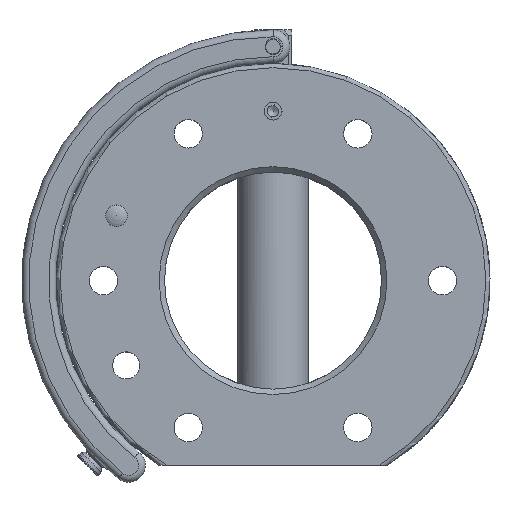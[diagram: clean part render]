
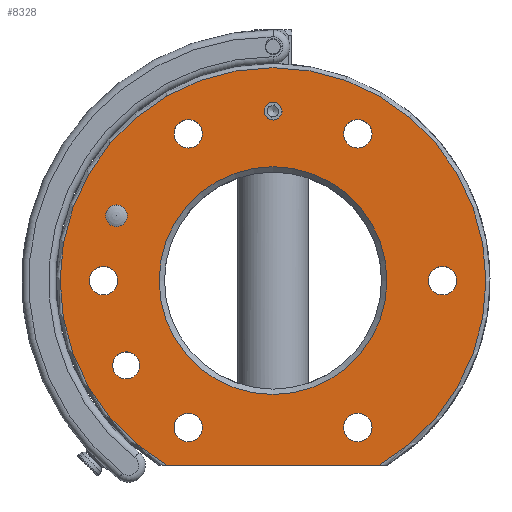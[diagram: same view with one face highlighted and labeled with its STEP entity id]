
A CAD part, top view. The second image highlights one B-rep face of the part: STEP entity #8328.
In plain terms, the highlighted planar face has unit normal (0, 0, 1).
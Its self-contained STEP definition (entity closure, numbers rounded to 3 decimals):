
#519=FACE_BOUND('',#1602,.T.);
#520=FACE_BOUND('',#1603,.T.);
#521=FACE_BOUND('',#1604,.T.);
#522=FACE_BOUND('',#1605,.T.);
#523=FACE_BOUND('',#1606,.T.);
#524=FACE_BOUND('',#1607,.T.);
#525=FACE_BOUND('',#1608,.T.);
#526=FACE_BOUND('',#1609,.T.);
#527=FACE_BOUND('',#1610,.T.);
#528=FACE_BOUND('',#1611,.T.);
#651=PLANE('',#9031);
#1084=FACE_OUTER_BOUND('',#1601,.T.);
#1601=EDGE_LOOP('',(#6259,#6260));
#1602=EDGE_LOOP('',(#6261));
#1603=EDGE_LOOP('',(#6262));
#1604=EDGE_LOOP('',(#6263));
#1605=EDGE_LOOP('',(#6264));
#1606=EDGE_LOOP('',(#6265));
#1607=EDGE_LOOP('',(#6266));
#1608=EDGE_LOOP('',(#6267));
#1609=EDGE_LOOP('',(#6268));
#1610=EDGE_LOOP('',(#6269));
#1611=EDGE_LOOP('',(#6270));
#2116=LINE('',#14147,#2678);
#2678=VECTOR('',#10274,10.);
#3194=CIRCLE('',#8881,3.324);
#3195=CIRCLE('',#8883,5.);
#3198=CIRCLE('',#8887,5.25);
#3202=CIRCLE('',#8894,5.25);
#3206=CIRCLE('',#8901,5.25);
#3210=CIRCLE('',#8908,5.25);
#3214=CIRCLE('',#8915,5.25);
#3218=CIRCLE('',#8922,5.25);
#3271=CIRCLE('',#9032,78.5);
#3272=CIRCLE('',#9033,4.);
#3273=CIRCLE('',#9034,42.);
#3573=VERTEX_POINT('',#12742);
#3574=VERTEX_POINT('',#12746);
#3577=VERTEX_POINT('',#12754);
#3584=VERTEX_POINT('',#12809);
#3588=VERTEX_POINT('',#12822);
#3592=VERTEX_POINT('',#12835);
#3596=VERTEX_POINT('',#12848);
#3600=VERTEX_POINT('',#12861);
#3717=VERTEX_POINT('',#14144);
#3718=VERTEX_POINT('',#14145);
#3719=VERTEX_POINT('',#14148);
#3720=VERTEX_POINT('',#14150);
#4474=EDGE_CURVE('',#3573,#3573,#3194,.T.);
#4476=EDGE_CURVE('',#3574,#3574,#3195,.T.);
#4481=EDGE_CURVE('',#3577,#3577,#3198,.T.);
#4490=EDGE_CURVE('',#3584,#3584,#3202,.T.);
#4496=EDGE_CURVE('',#3588,#3588,#3206,.T.);
#4502=EDGE_CURVE('',#3592,#3592,#3210,.T.);
#4508=EDGE_CURVE('',#3596,#3596,#3214,.T.);
#4514=EDGE_CURVE('',#3600,#3600,#3218,.T.);
#4668=EDGE_CURVE('',#3717,#3718,#3271,.T.);
#4669=EDGE_CURVE('',#3717,#3718,#2116,.T.);
#4670=EDGE_CURVE('',#3719,#3719,#3272,.T.);
#4671=EDGE_CURVE('',#3720,#3720,#3273,.T.);
#6259=ORIENTED_EDGE('',*,*,#4668,.F.);
#6260=ORIENTED_EDGE('',*,*,#4669,.T.);
#6261=ORIENTED_EDGE('',*,*,#4670,.T.);
#6262=ORIENTED_EDGE('',*,*,#4474,.T.);
#6263=ORIENTED_EDGE('',*,*,#4476,.T.);
#6264=ORIENTED_EDGE('',*,*,#4481,.T.);
#6265=ORIENTED_EDGE('',*,*,#4490,.T.);
#6266=ORIENTED_EDGE('',*,*,#4496,.T.);
#6267=ORIENTED_EDGE('',*,*,#4502,.T.);
#6268=ORIENTED_EDGE('',*,*,#4508,.T.);
#6269=ORIENTED_EDGE('',*,*,#4514,.T.);
#6270=ORIENTED_EDGE('',*,*,#4671,.F.);
#8328=ADVANCED_FACE('',(#1084,#519,#520,#521,#522,#523,#524,#525,#526,#527,
#528),#651,.T.);
#8881=AXIS2_PLACEMENT_3D('',#12743,#9918,#9919);
#8883=AXIS2_PLACEMENT_3D('',#12747,#9923,#9924);
#8887=AXIS2_PLACEMENT_3D('',#12756,#9933,#9934);
#8894=AXIS2_PLACEMENT_3D('',#12811,#9949,#9950);
#8901=AXIS2_PLACEMENT_3D('',#12824,#9965,#9966);
#8908=AXIS2_PLACEMENT_3D('',#12837,#9981,#9982);
#8915=AXIS2_PLACEMENT_3D('',#12850,#9997,#9998);
#8922=AXIS2_PLACEMENT_3D('',#12863,#10013,#10014);
#9031=AXIS2_PLACEMENT_3D('',#14143,#10270,#10271);
#9032=AXIS2_PLACEMENT_3D('',#14146,#10272,#10273);
#9033=AXIS2_PLACEMENT_3D('',#14149,#10275,#10276);
#9034=AXIS2_PLACEMENT_3D('',#14151,#10277,#10278);
#9918=DIRECTION('center_axis',(0.,0.,-1.));
#9919=DIRECTION('ref_axis',(1.,0.,0.));
#9923=DIRECTION('center_axis',(0.,0.,-1.));
#9924=DIRECTION('ref_axis',(1.,0.,0.));
#9933=DIRECTION('center_axis',(0.,0.,-1.));
#9934=DIRECTION('ref_axis',(-1.,0.,0.));
#9949=DIRECTION('center_axis',(0.,0.,-1.));
#9950=DIRECTION('ref_axis',(-1.,0.,0.));
#9965=DIRECTION('center_axis',(0.,0.,-1.));
#9966=DIRECTION('ref_axis',(-1.,0.,0.));
#9981=DIRECTION('center_axis',(0.,0.,-1.));
#9982=DIRECTION('ref_axis',(-1.,0.,0.));
#9997=DIRECTION('center_axis',(0.,0.,-1.));
#9998=DIRECTION('ref_axis',(-1.,0.,0.));
#10013=DIRECTION('center_axis',(0.,0.,-1.));
#10014=DIRECTION('ref_axis',(-1.,0.,0.));
#10270=DIRECTION('center_axis',(0.,0.,1.));
#10271=DIRECTION('ref_axis',(1.,0.,0.));
#10272=DIRECTION('center_axis',(0.,0.,-1.));
#10273=DIRECTION('ref_axis',(0.,1.,0.));
#10274=DIRECTION('',(1.,0.,0.));
#10275=DIRECTION('center_axis',(0.,0.,-1.));
#10276=DIRECTION('ref_axis',(1.,0.,0.));
#10277=DIRECTION('center_axis',(0.,0.,1.));
#10278=DIRECTION('ref_axis',(-1.,0.,0.));
#12742=CARTESIAN_POINT('',(-3.324,62.5,50.));
#12743=CARTESIAN_POINT('Origin',(0.,62.5,50.));
#12746=CARTESIAN_POINT('',(-59.127,-31.25,50.));
#12747=CARTESIAN_POINT('Origin',(-54.127,-31.25,50.));
#12754=CARTESIAN_POINT('',(-26.,-54.127,50.));
#12756=CARTESIAN_POINT('Origin',(-31.25,-54.127,50.));
#12809=CARTESIAN_POINT('',(67.75,0.,50.));
#12811=CARTESIAN_POINT('Origin',(62.5,0.,50.));
#12822=CARTESIAN_POINT('',(-26.,54.127,50.));
#12824=CARTESIAN_POINT('Origin',(-31.25,54.127,50.));
#12835=CARTESIAN_POINT('',(-57.25,0.,50.));
#12837=CARTESIAN_POINT('Origin',(-62.5,0.,50.));
#12848=CARTESIAN_POINT('',(36.5,54.127,50.));
#12850=CARTESIAN_POINT('Origin',(31.25,54.127,50.));
#12861=CARTESIAN_POINT('',(36.5,-54.127,50.));
#12863=CARTESIAN_POINT('Origin',(31.25,-54.127,50.));
#14143=CARTESIAN_POINT('Origin',(0.,0.,50.));
#14144=CARTESIAN_POINT('',(-39.221,-68.,50.));
#14145=CARTESIAN_POINT('',(39.221,-68.,50.));
#14146=CARTESIAN_POINT('Origin',(0.,0.,50.));
#14147=CARTESIAN_POINT('',(-22.5,-68.,50.));
#14148=CARTESIAN_POINT('',(-61.742,23.918,50.));
#14149=CARTESIAN_POINT('Origin',(-57.742,23.918,50.));
#14150=CARTESIAN_POINT('',(42.,0.,50.));
#14151=CARTESIAN_POINT('Origin',(0.,0.,50.));
